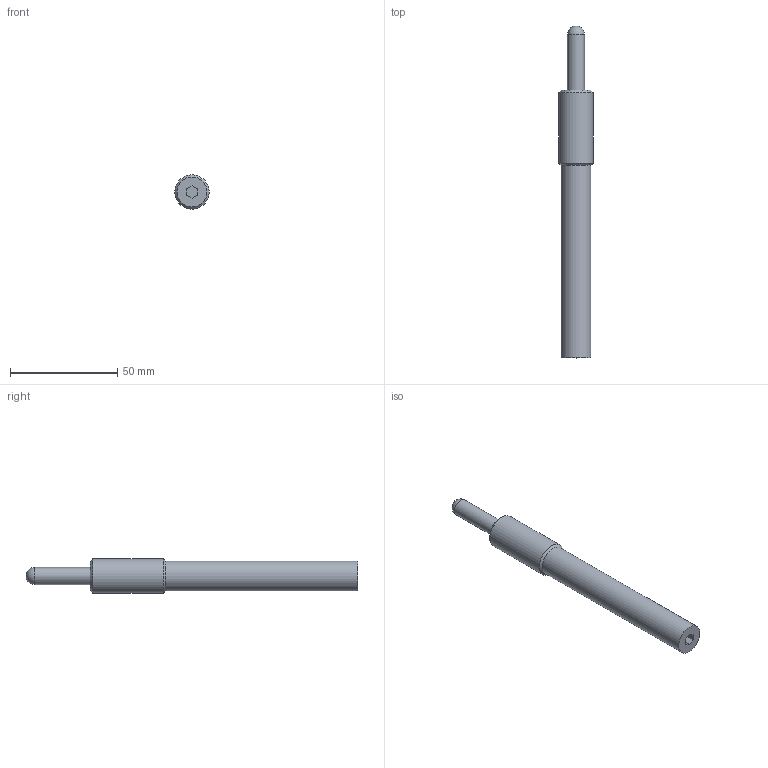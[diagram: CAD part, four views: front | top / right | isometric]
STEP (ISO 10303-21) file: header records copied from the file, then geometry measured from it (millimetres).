
FILE_DESCRIPTION( ( 'STEP AP203' ), '1' );
FILE_NAME( 'p:/temp/worker_13/temp/app_48_0201907041159592704368410e898ce_000000_00_00_000000/format_4/M314-04-012.stp', '2019-07-04T10:00:02', ( '' ), ( '' ), ' ', 'PARTsolutions', ' ' );
FILE_SCHEMA( ( 'CONFIG_CONTROL_DESIGN' ) );
Length unit declared in the file: millimetre
Products named in the file (1): _M314-04-012
Bounding box: 16 x 155 x 16 mm (x, y, z)
Volume: 22164.3 mm3; surface area: 6841.3 mm2
Topology: 1 solids, 1 shells, 15 faces, 32 edges, 20 vertices
Faces by surface type: plane 9, cylinder 3, cone 2, sphere 1
Full cylindrical faces by diameter (mm): 8 x1, 14 x1, 16 x1
Entity records: 410 total; most frequent: DIRECTION 64, CARTESIAN_POINT 61, ORIENTED_EDGE 50, EDGE_CURVE 25, AXIS2_PLACEMENT_3D 23, EDGE_LOOP 22, VERTEX_POINT 20, FACE_OUTER_BOUND 18
